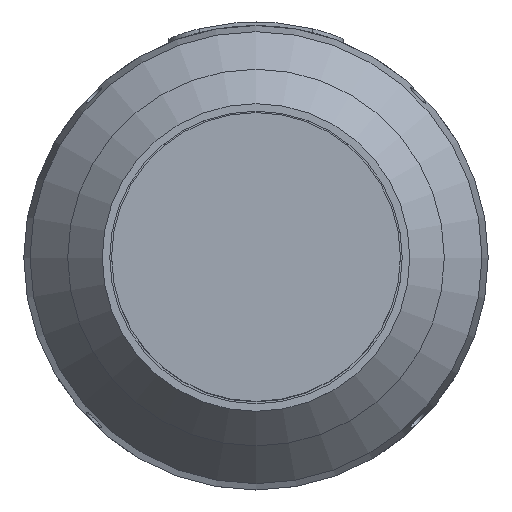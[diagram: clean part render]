
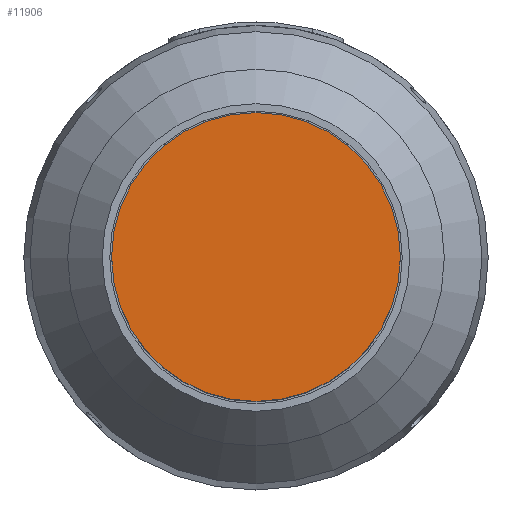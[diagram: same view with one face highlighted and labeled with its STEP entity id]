
A CAD part, top view. The second image highlights one B-rep face of the part: STEP entity #11906.
In plain terms, the highlighted planar face has unit normal (0, 0, 1).
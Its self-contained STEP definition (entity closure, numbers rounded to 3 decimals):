
#11877 = EDGE_CURVE('',#11878,#11878,#11880,.T.);
#11878 = VERTEX_POINT('',#11879);
#11879 = CARTESIAN_POINT('',(23.,0.,214.));
#11880 = CIRCLE('',#11881,23.);
#11881 = AXIS2_PLACEMENT_3D('',#11882,#11883,#11884);
#11882 = CARTESIAN_POINT('',(0.,0.,214.));
#11883 = DIRECTION('',(0.,0.,1.));
#11884 = DIRECTION('',(1.,0.,0.));
#11906 = ADVANCED_FACE('',(#11907),#11910,.T.);
#11907 = FACE_BOUND('',#11908,.T.);
#11908 = EDGE_LOOP('',(#11909));
#11909 = ORIENTED_EDGE('',*,*,#11877,.T.);
#11910 = PLANE('',#11911);
#11911 = AXIS2_PLACEMENT_3D('',#11912,#11913,#11914);
#11912 = CARTESIAN_POINT('',(0.,0.,214.));
#11913 = DIRECTION('',(0.,0.,1.));
#11914 = DIRECTION('',(1.,0.,0.));
